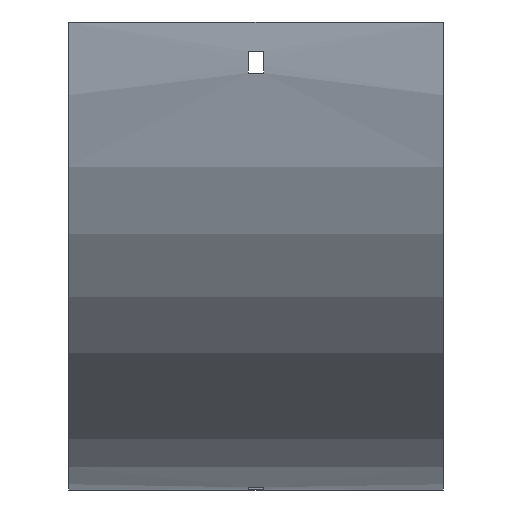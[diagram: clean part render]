
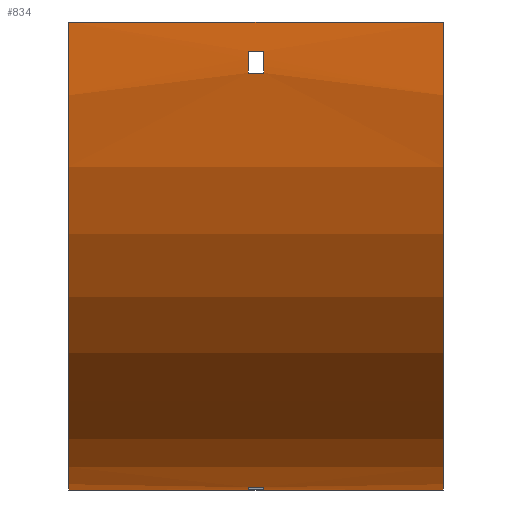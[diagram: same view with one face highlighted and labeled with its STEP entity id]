
A CAD part, front view. The second image highlights one B-rep face of the part: STEP entity #834.
In plain terms, the highlighted cylindrical face has radius 192.5 mm (diameter 385 mm), a partial arc.
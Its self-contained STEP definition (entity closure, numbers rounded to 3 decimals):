
#33 = LINE ( 'NONE', #939, #986 ) ;
#48 = DIRECTION ( 'NONE',  ( 1., 0., 0. ) ) ;
#62 = DIRECTION ( 'NONE',  ( 0., 0., -1. ) ) ;
#147 = ORIENTED_EDGE ( 'NONE', *, *, #1086, .T. ) ;
#164 = VECTOR ( 'NONE', #906, 1000. ) ;
#173 = LINE ( 'NONE', #830, #488 ) ;
#175 = CARTESIAN_POINT ( 'NONE',  ( -77., 100., -192.5 ) ) ;
#184 = VECTOR ( 'NONE', #1602, 1000. ) ;
#199 = ORIENTED_EDGE ( 'NONE', *, *, #427, .F. ) ;
#221 = VERTEX_POINT ( 'NONE', #769 ) ;
#235 = AXIS2_PLACEMENT_3D ( 'NONE', #1355, #965, #1479 ) ;
#299 = AXIS2_PLACEMENT_3D ( 'NONE', #1154, #1375, #337 ) ;
#316 = CARTESIAN_POINT ( 'NONE',  ( -3.25, 100., 0. ) ) ;
#318 = ORIENTED_EDGE ( 'NONE', *, *, #492, .T. ) ;
#320 = VERTEX_POINT ( 'NONE', #920 ) ;
#337 = DIRECTION ( 'NONE',  ( 0., 0., 1. ) ) ;
#350 = CIRCLE ( 'NONE', #1121, 192.5 ) ;
#392 = CARTESIAN_POINT ( 'NONE',  ( -3.25, -91.351, -21. ) ) ;
#421 = CARTESIAN_POINT ( 'NONE',  ( 77., 88., -192.126 ) ) ;
#427 = EDGE_CURVE ( 'NONE', #320, #1484, #1385, .T. ) ;
#445 = LINE ( 'NONE', #1218, #1633 ) ;
#454 = DIRECTION ( 'NONE',  ( 1., 0., 0. ) ) ;
#488 = VECTOR ( 'NONE', #843, 1000. ) ;
#492 = EDGE_CURVE ( 'NONE', #221, #792, #173, .T. ) ;
#498 = VERTEX_POINT ( 'NONE', #958 ) ;
#503 = ORIENTED_EDGE ( 'NONE', *, *, #1046, .F. ) ;
#528 = CARTESIAN_POINT ( 'NONE',  ( -3.25, 100., 0. ) ) ;
#537 = VERTEX_POINT ( 'NONE', #854 ) ;
#546 = CIRCLE ( 'NONE', #1492, 192.5 ) ;
#557 = CARTESIAN_POINT ( 'NONE',  ( 77., -92.5, 0. ) ) ;
#566 = LINE ( 'NONE', #421, #1088 ) ;
#578 = AXIS2_PLACEMENT_3D ( 'NONE', #1498, #48, #62 ) ;
#589 = DIRECTION ( 'NONE',  ( 1., 0., 0. ) ) ;
#602 = CARTESIAN_POINT ( 'NONE',  ( 3.25, 79., -191.351 ) ) ;
#629 = CARTESIAN_POINT ( 'NONE',  ( 77., 100., -192.5 ) ) ;
#639 = ORIENTED_EDGE ( 'NONE', *, *, #751, .T. ) ;
#659 = ORIENTED_EDGE ( 'NONE', *, *, #1108, .T. ) ;
#668 = VERTEX_POINT ( 'NONE', #629 ) ;
#670 = CARTESIAN_POINT ( 'NONE',  ( 77., -92.5, 0. ) ) ;
#682 = DIRECTION ( 'NONE',  ( 1., 0., 0. ) ) ;
#683 = VERTEX_POINT ( 'NONE', #803 ) ;
#698 = CARTESIAN_POINT ( 'NONE',  ( -3.25, 88., -192.126 ) ) ;
#751 = EDGE_CURVE ( 'NONE', #792, #537, #546, .T. ) ;
#769 = CARTESIAN_POINT ( 'NONE',  ( 3.25, -91.351, -21. ) ) ;
#792 = VERTEX_POINT ( 'NONE', #392 ) ;
#797 = CARTESIAN_POINT ( 'NONE',  ( 77., 100., 0. ) ) ;
#803 = CARTESIAN_POINT ( 'NONE',  ( -77., -92.5, 0. ) ) ;
#829 = FACE_BOUND ( 'NONE', #1571, .T. ) ;
#830 = CARTESIAN_POINT ( 'NONE',  ( 77., -91.351, -21. ) ) ;
#834 = ADVANCED_FACE ( 'NONE', ( #1600, #836, #829 ), #989, .T. ) ;
#836 = FACE_BOUND ( 'NONE', #1241, .T. ) ;
#843 = DIRECTION ( 'NONE',  ( -1., 0., 0. ) ) ;
#854 = CARTESIAN_POINT ( 'NONE',  ( -3.25, -92.126, -12. ) ) ;
#861 = DIRECTION ( 'NONE',  ( 0., 1., 0. ) ) ;
#873 = CIRCLE ( 'NONE', #578, 192.5 ) ;
#879 = EDGE_CURVE ( 'NONE', #1070, #221, #873, .T. ) ;
#906 = DIRECTION ( 'NONE',  ( -1., 0., 0. ) ) ;
#920 = CARTESIAN_POINT ( 'NONE',  ( -3.25, 79., -191.351 ) ) ;
#932 = EDGE_CURVE ( 'NONE', #537, #1070, #445, .T. ) ;
#939 = CARTESIAN_POINT ( 'NONE',  ( 77., 100., -192.5 ) ) ;
#958 = CARTESIAN_POINT ( 'NONE',  ( 3.25, 88., -192.126 ) ) ;
#965 = DIRECTION ( 'NONE',  ( -1., 0., 0. ) ) ;
#977 = ORIENTED_EDGE ( 'NONE', *, *, #1556, .F. ) ;
#986 = VECTOR ( 'NONE', #1161, 1000. ) ;
#989 = CYLINDRICAL_SURFACE ( 'NONE', #235, 192.5 ) ;
#1006 = CARTESIAN_POINT ( 'NONE',  ( 3.25, -92.126, -12. ) ) ;
#1042 = ORIENTED_EDGE ( 'NONE', *, *, #1499, .F. ) ;
#1046 = EDGE_CURVE ( 'NONE', #498, #1061, #1146, .T. ) ;
#1057 = LINE ( 'NONE', #1458, #184 ) ;
#1061 = VERTEX_POINT ( 'NONE', #602 ) ;
#1070 = VERTEX_POINT ( 'NONE', #1006 ) ;
#1086 = EDGE_CURVE ( 'NONE', #1416, #683, #1172, .T. ) ;
#1088 = VECTOR ( 'NONE', #682, 1000. ) ;
#1108 = EDGE_CURVE ( 'NONE', #683, #1437, #350, .T. ) ;
#1121 = AXIS2_PLACEMENT_3D ( 'NONE', #1291, #1552, #1431 ) ;
#1127 = EDGE_CURVE ( 'NONE', #668, #1437, #33, .T. ) ;
#1146 = CIRCLE ( 'NONE', #299, 192.5 ) ;
#1154 = CARTESIAN_POINT ( 'NONE',  ( 3.25, 100., 0. ) ) ;
#1161 = DIRECTION ( 'NONE',  ( -1., 0., 0. ) ) ;
#1169 = CIRCLE ( 'NONE', #1309, 192.5 ) ;
#1172 = LINE ( 'NONE', #670, #164 ) ;
#1218 = CARTESIAN_POINT ( 'NONE',  ( 77., -92.126, -12. ) ) ;
#1228 = AXIS2_PLACEMENT_3D ( 'NONE', #316, #589, #861 ) ;
#1241 = EDGE_LOOP ( 'NONE', ( #318, #639, #1560, #1462 ) ) ;
#1278 = EDGE_LOOP ( 'NONE', ( #659, #1503, #977, #147 ) ) ;
#1291 = CARTESIAN_POINT ( 'NONE',  ( -77., 100., 0. ) ) ;
#1309 = AXIS2_PLACEMENT_3D ( 'NONE', #797, #1317, #1613 ) ;
#1317 = DIRECTION ( 'NONE',  ( 1., 0., 0. ) ) ;
#1355 = CARTESIAN_POINT ( 'NONE',  ( 77., 100., 0. ) ) ;
#1367 = ORIENTED_EDGE ( 'NONE', *, *, #1426, .F. ) ;
#1375 = DIRECTION ( 'NONE',  ( -1., 0., 0. ) ) ;
#1385 = CIRCLE ( 'NONE', #1228, 192.5 ) ;
#1416 = VERTEX_POINT ( 'NONE', #557 ) ;
#1426 = EDGE_CURVE ( 'NONE', #1061, #320, #1057, .T. ) ;
#1431 = DIRECTION ( 'NONE',  ( 0., 0., -1. ) ) ;
#1437 = VERTEX_POINT ( 'NONE', #175 ) ;
#1458 = CARTESIAN_POINT ( 'NONE',  ( 77., 79., -191.351 ) ) ;
#1462 = ORIENTED_EDGE ( 'NONE', *, *, #879, .T. ) ;
#1464 = DIRECTION ( 'NONE',  ( 0., 0., 1. ) ) ;
#1479 = DIRECTION ( 'NONE',  ( 0., 0., 1. ) ) ;
#1484 = VERTEX_POINT ( 'NONE', #698 ) ;
#1492 = AXIS2_PLACEMENT_3D ( 'NONE', #528, #1557, #1464 ) ;
#1498 = CARTESIAN_POINT ( 'NONE',  ( 3.25, 100., 0. ) ) ;
#1499 = EDGE_CURVE ( 'NONE', #1484, #498, #566, .T. ) ;
#1503 = ORIENTED_EDGE ( 'NONE', *, *, #1127, .F. ) ;
#1552 = DIRECTION ( 'NONE',  ( 1., 0., 0. ) ) ;
#1556 = EDGE_CURVE ( 'NONE', #1416, #668, #1169, .T. ) ;
#1557 = DIRECTION ( 'NONE',  ( -1., 0., 0. ) ) ;
#1560 = ORIENTED_EDGE ( 'NONE', *, *, #932, .T. ) ;
#1571 = EDGE_LOOP ( 'NONE', ( #199, #1367, #503, #1042 ) ) ;
#1600 = FACE_OUTER_BOUND ( 'NONE', #1278, .T. ) ;
#1602 = DIRECTION ( 'NONE',  ( -1., 0., 0. ) ) ;
#1613 = DIRECTION ( 'NONE',  ( 0., 0., -1. ) ) ;
#1633 = VECTOR ( 'NONE', #454, 1000. ) ;
